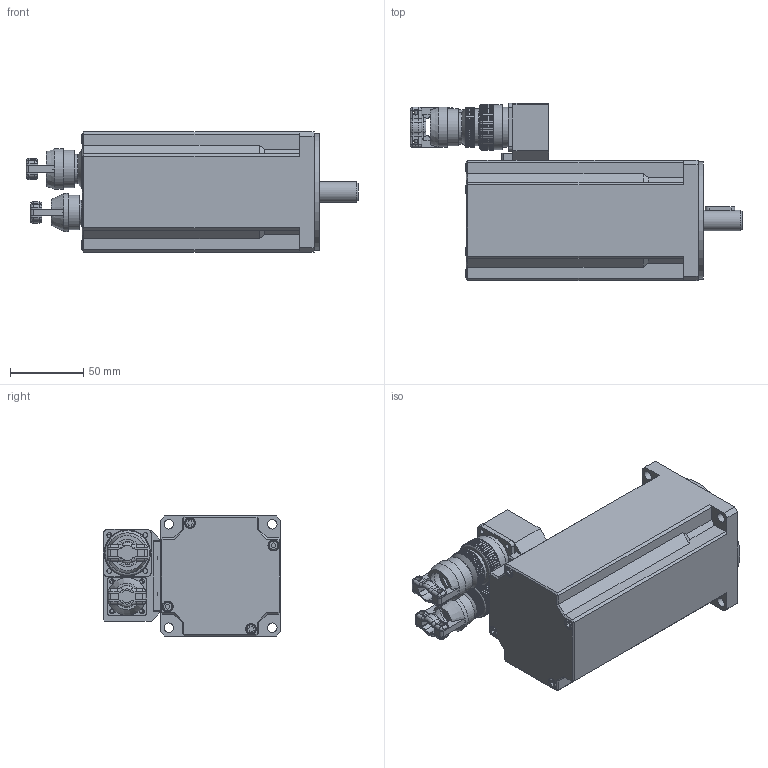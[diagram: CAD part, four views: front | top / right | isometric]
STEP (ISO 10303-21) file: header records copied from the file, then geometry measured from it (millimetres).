
FILE_DESCRIPTION(/* description */ ('!AP-203 File Generated from CADKEY 99!'),/* implementation_level */ '2;1');
FILE_NAME(/* name */ 'SMB82-03-8-14-2D-3D',/* time_stamp */ '2008-05-21T11:02:31+02:00',/* author */ ('CADKEY'),/* organization */ ('CADKEY Corporation'),/* preprocessor_version */ 'ST-DEVELOPER v8',/* originating_system */ 'step.cde',/* authorisation */ 'CK');
FILE_SCHEMA (('CONFIG_CONTROL_DESIGN'));
Length unit declared in the file: millimetre
Products named in the file (1): 1999-0203
Bounding box: 226.8 x 121 x 82 mm (x, y, z)
Volume: 513813.2 mm3; surface area: 205697.5 mm2
Topology: 13 solids, 38 shells, 2220 faces, 5518 edges, 3442 vertices
Faces by surface type: plane 1288, cylinder 563, bspline 195, cone 88, torus 67, sphere 19
Full cylindrical faces by diameter (mm): 1.5 x10, 1.8 x10, 2 x5, 2.387 x7, 2.6 x7, 3 x16, 3.3 x8, 3.5 x4, 3.8 x10, 4 x15, 4.019 x1, 4.5 x8, 5 x9, 5.3 x1, 5.5 x8, 6 x4, 6.5 x4, 7 x4, 7.5 x8, 8.5 x4, 13.8 x1, 14 x2, 14.4 x1, 15 x1, 15.3 x1, 15.5 x1, 16 x2, 17 x4, 17.5 x1, 17.8 x1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
Entity records: 76153 total; most frequent: CARTESIAN_POINT 28555, ORIENTED_EDGE 10140, DIRECTION 8225, EDGE_CURVE 5069, AXIS2_PLACEMENT_3D 3505, VERTEX_POINT 3360, FACE_BOUND 2740, EDGE_LOOP 2739
